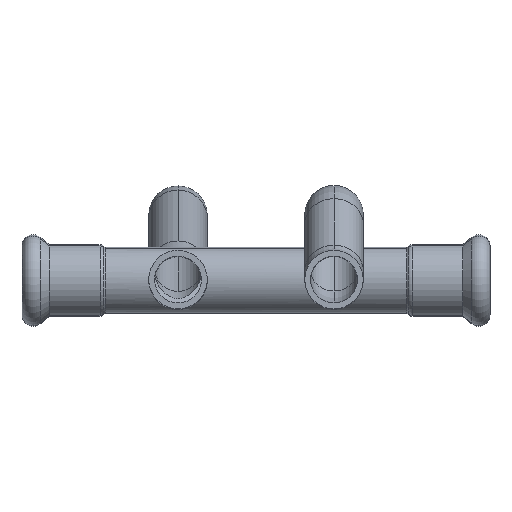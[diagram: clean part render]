
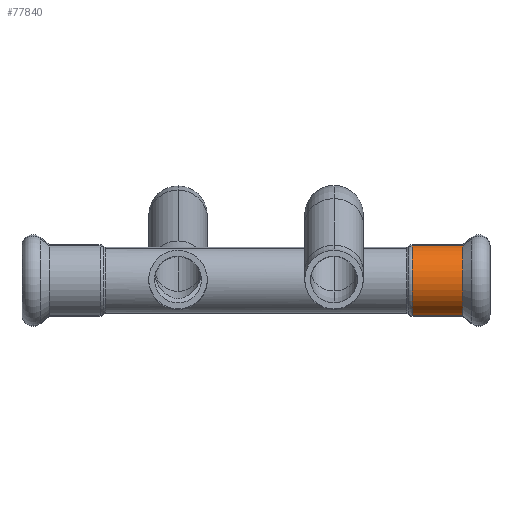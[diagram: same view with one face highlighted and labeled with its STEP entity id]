
A CAD part, top view. The second image highlights one B-rep face of the part: STEP entity #77840.
In plain terms, the highlighted cylindrical face has radius 9.125 mm (diameter 18.25 mm), a partial arc.
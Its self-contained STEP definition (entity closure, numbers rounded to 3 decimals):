
#77300=CARTESIAN_POINT('',(-1.199,22.648,
0.));
#77310=VERTEX_POINT('',#77300);
#77390=CARTESIAN_POINT('',(-1.199,4.398,0.));
#77400=VERTEX_POINT('',#77390);
#77430=CARTESIAN_POINT('',(-1.199,13.523,0.));
#77440=DIRECTION('',(1.,0.,0.));
#77450=DIRECTION('',(-0.,-1.,-0.));
#77460=AXIS2_PLACEMENT_3D('',#77430,#77440,#77450);
#77470=CIRCLE('',#77460,9.125);
#77480=EDGE_CURVE('',#77310,#77400,#77470,.T.);
#77530=CARTESIAN_POINT('',(-7.691,13.523,0.));
#77540=DIRECTION('',(1.,0.,0.));
#77550=DIRECTION('',(-0.,-1.,-0.));
#77560=AXIS2_PLACEMENT_3D('',#77530,#77540,#77550);
#77570=CYLINDRICAL_SURFACE('',#77560,9.125);
#77580=CARTESIAN_POINT('',(-7.691,22.648,
0.));
#77590=DIRECTION('',(1.,0.,0.));
#77600=VECTOR('',#77590,1.);
#77610=LINE('',#77580,#77600);
#77620=CARTESIAN_POINT('',(-14.183,22.648,0.));
#77630=VERTEX_POINT('',#77620);
#77640=EDGE_CURVE('',#77630,#77310,#77610,.T.);
#77650=ORIENTED_EDGE('',*,*,#77640,.F.);
#77660=ORIENTED_EDGE('',*,*,#77480,.F.);
#77670=CARTESIAN_POINT('',(-7.691,4.398,0.));
#77680=DIRECTION('',(1.,0.,0.));
#77690=VECTOR('',#77680,1.);
#77700=LINE('',#77670,#77690);
#77710=CARTESIAN_POINT('',(-14.183,4.398,0.));
#77720=VERTEX_POINT('',#77710);
#77730=EDGE_CURVE('',#77720,#77400,#77700,.T.);
#77740=ORIENTED_EDGE('',*,*,#77730,.T.);
#77750=CARTESIAN_POINT('',(-14.183,13.523,0.));
#77760=DIRECTION('',(1.,0.,0.));
#77770=DIRECTION('',(0.,-1.,-0.));
#77780=AXIS2_PLACEMENT_3D('',#77750,#77760,#77770);
#77790=CIRCLE('',#77780,9.125);
#77800=EDGE_CURVE('',#77630,#77720,#77790,.T.);
#77810=ORIENTED_EDGE('',*,*,#77800,.T.);
#77820=EDGE_LOOP('',(#77810,#77740,#77660,#77650));
#77830=FACE_OUTER_BOUND('',#77820,.T.);
#77840=ADVANCED_FACE('',(#77830),#77570,.T.);
